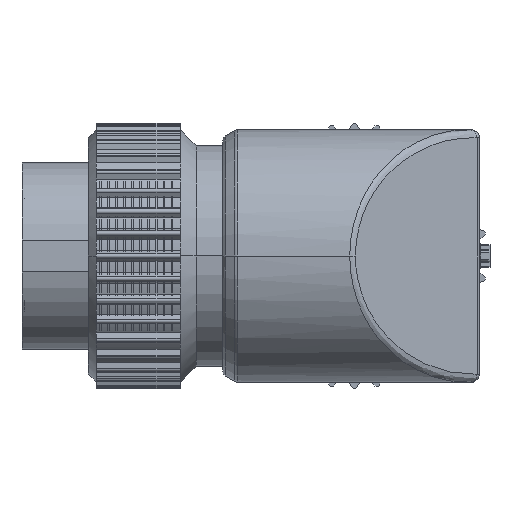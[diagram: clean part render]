
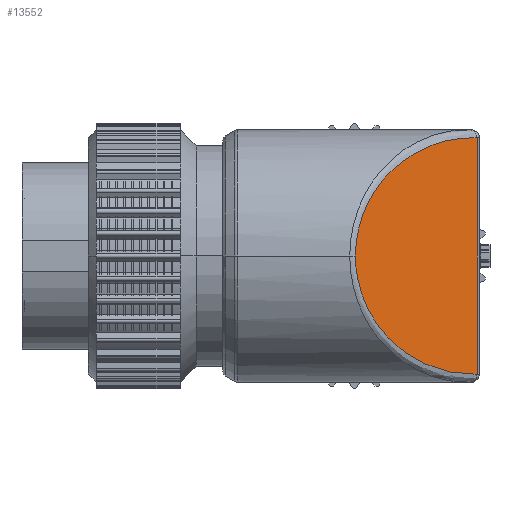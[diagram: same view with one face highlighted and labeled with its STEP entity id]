
A CAD part, front view. The second image highlights one B-rep face of the part: STEP entity #13552.
In plain terms, the highlighted planar face has unit normal (0.707, -0.707, 0).
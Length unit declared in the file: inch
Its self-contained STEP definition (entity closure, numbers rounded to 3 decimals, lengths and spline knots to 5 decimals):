
#15=DIRECTION('',(0.,0.,-1.));
#16=VECTOR('',#15,0.88965);
#17=CARTESIAN_POINT('',(1.71121,-0.00879,0.44482));
#18=LINE('',#17,#16);
#19=CARTESIAN_POINT('',(1.71121,-0.00879,
-0.44482));
#20=CARTESIAN_POINT('',(1.60857,-0.11143,
-0.44769));
#21=CARTESIAN_POINT('',(1.45219,-0.26781,
-0.401));
#22=CARTESIAN_POINT('',(1.29089,-0.42911,
-0.21273));
#23=CARTESIAN_POINT('',(1.25379,-0.46621,
-0.07179));
#24=CARTESIAN_POINT('',(1.25379,-0.46621,
0.));
#26=CARTESIAN_POINT('',(1.25379,-0.46621,
0.));
#27=CARTESIAN_POINT('',(1.25379,-0.46621,0.07178));
#28=CARTESIAN_POINT('',(1.29089,-0.42911,0.21273));
#29=CARTESIAN_POINT('',(1.45219,-0.26781,0.401));
#30=CARTESIAN_POINT('',(1.60857,-0.11143,0.44769));
#31=CARTESIAN_POINT('',(1.71121,-0.00879,0.44482));
#11059=CARTESIAN_POINT('',(1.71121,-0.00879,
0.44482));
#11060=CARTESIAN_POINT('',(1.71121,-0.00879,
-0.44482));
#11061=VERTEX_POINT('',#11059);
#11062=VERTEX_POINT('',#11060);
#11063=VERTEX_POINT('',#24);
#13540=CARTESIAN_POINT('',(1.4825,-0.2375,
0.));
#13541=DIRECTION('',(0.707,-0.707,0.));
#13542=DIRECTION('',(-0.707,-0.707,0.));
#13543=AXIS2_PLACEMENT_3D('',#13540,#13541,#13542);
#13544=PLANE('',#13543);
#13545=ORIENTED_EDGE('',*,*,#13530,.T.);
#13547=ORIENTED_EDGE('',*,*,#13546,.T.);
#13549=ORIENTED_EDGE('',*,*,#13548,.T.);
#13550=EDGE_LOOP('',(#13545,#13547,#13549));
#13551=FACE_OUTER_BOUND('',#13550,.F.);
#13552=ADVANCED_FACE('',(#13551),#13544,.T.);
#25=B_SPLINE_CURVE_WITH_KNOTS('',3,(#19,#20,#21,#22,#23,#24),.UNSPECIFIED.,.F.,
.F.,(4,1,1,4),(0.,0.5,0.75,1.),.UNSPECIFIED.);
#32=B_SPLINE_CURVE_WITH_KNOTS('',3,(#26,#27,#28,#29,#30,#31),.UNSPECIFIED.,.F.,
.F.,(4,1,1,4),(0.,0.25,0.5,1.),.UNSPECIFIED.);
#13530=EDGE_CURVE('',#11061,#11062,#18,.T.);
#13546=EDGE_CURVE('',#11062,#11063,#25,.T.);
#13548=EDGE_CURVE('',#11063,#11061,#32,.T.);
